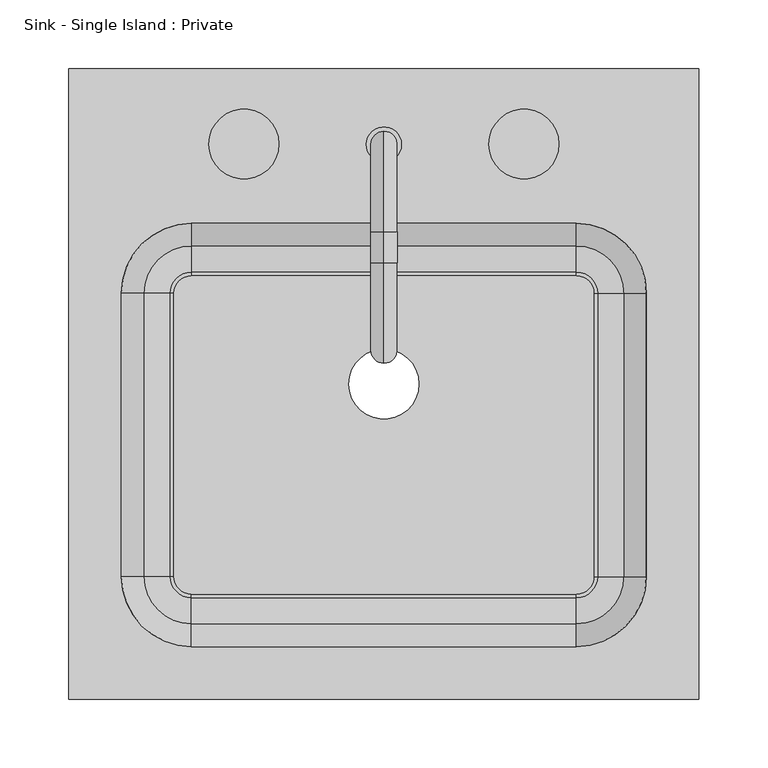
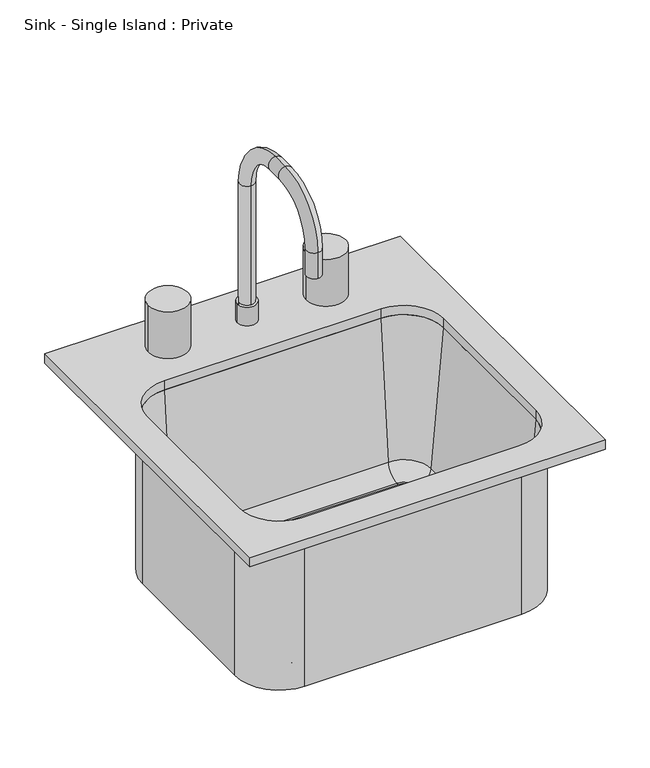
"""IFC4 building model written with IfcOpenShell, lengths in millimetres: flow terminal geometry, Sink - Single Island : Private."""

import ifcopenshell
import ifcopenshell.guid

model = None  # the IFC model being written
_history = None  # IfcOwnerHistory: only IFC2X3 demands one
_inside = {}  # id of a spatial element -> (the spatial element, [elements in it])
_under = {}  # id of a project, library or spatial element -> (it, [spatial elements below it])
_declared = {}  # id of a project -> (the project, [libraries it declares])
_typed = {}  # id of a type object -> (the type object, [elements of that type])
_made_of = {}  # id of a material, layer set ... -> (it, [elements and type objects made of it])


def new_model(schema):
    """Start an empty IFC model of exactly this schema.

    Asked for "IFC4X3", IfcOpenShell would pick the latest addendum, in which some entities
    have other attributes; the version numbers below select the first issue.
    IFC2X3 requires an IfcOwnerHistory on every rooted entity: one is made here for all.
    """
    global model, _history
    if schema == "IFC4X3":
        model = ifcopenshell.file(schema_version=(4, 3, 0, 0))
    else:
        model = ifcopenshell.file(schema=schema)
    _inside.clear()
    _under.clear()
    _declared.clear()
    _typed.clear()
    _made_of.clear()
    _history = None
    if model.schema == "IFC2X3":
        org = make("IfcOrganization", Name="unknown")
        user = make(
            "IfcPersonAndOrganization",
            ThePerson=make("IfcPerson", FamilyName="unknown"),
            TheOrganization=org,
        )
        app = make(
            "IfcApplication",
            ApplicationDeveloper=org,
            Version="unknown",
            ApplicationFullName="unknown",
            ApplicationIdentifier="unknown",
        )
        _history = make(
            "IfcOwnerHistory",
            OwningUser=user,
            OwningApplication=app,
            ChangeAction="ADDED",
            CreationDate=0,
        )
    return model


def make(cls, **values):
    """One entity of the class cls with the attributes given. An attribute that is None is left unset."""
    return model.create_entity(
        cls, **{name: value for name, value in values.items() if value is not None}
    )


def rooted(cls, **values):
    """An entity with a GlobalId (a new one), such as an element, a storey or a relation."""
    return make(cls, GlobalId=ifcopenshell.guid.new(), OwnerHistory=_history, **values)


def si_unit(unit_type, name, prefix=None):
    """IfcSIUnit, for example si_unit("LENGTHUNIT", "METRE", prefix="MILLI")."""
    return make("IfcSIUnit", UnitType=unit_type, Prefix=prefix, Name=name)


def assignment(units):
    """IfcUnitAssignment: the units of a project."""
    return None if units is None else make("IfcUnitAssignment", Units=units)


def point(xyz):
    """IfcCartesianPoint."""
    return None if xyz is None else make("IfcCartesianPoint", Coordinates=xyz)


def direction(xyz):
    """IfcDirection."""
    return None if xyz is None else make("IfcDirection", DirectionRatios=xyz)


def frame(location, z_axis=None, x_axis=None):
    """IfcAxis2Placement3D, a coordinate frame: its origin and axes. An axis left out is left unset."""
    return make(
        "IfcAxis2Placement3D",
        Location=point(location),
        Axis=direction(z_axis),
        RefDirection=direction(x_axis),
    )


def frame_2d(location, x_axis=None):
    """IfcAxis2Placement2D, a coordinate frame in the plane: its origin and x axis."""
    return make(
        "IfcAxis2Placement2D", Location=point(location), RefDirection=direction(x_axis)
    )


def origin():
    """The frame at (0, 0, 0) with its axes left unset."""
    return frame((0.0, 0.0, 0.0))


def origin_with_axes():
    """The frame at (0, 0, 0) with the z axis (0, 0, 1) and the x axis (1, 0, 0) written out."""
    return frame((0.0, 0.0, 0.0), z_axis=(0.0, 0.0, 1.0), x_axis=(1.0, 0.0, 0.0))


def origin_2d():
    """The frame at (0, 0) in the plane with its x axis left unset."""
    return frame_2d((0.0, 0.0))


def place(relative_to, where):
    """IfcLocalPlacement: puts the frame where relative to a parent placement (None: the world)."""
    return make(
        "IfcLocalPlacement", PlacementRelTo=relative_to, RelativePlacement=where
    )


def context(
    kind, dimensions, precision=None, world=None, true_north=None, identifier=None
):
    """IfcGeometricRepresentationContext, for example the 3D "Model" context."""
    return make(
        "IfcGeometricRepresentationContext",
        ContextIdentifier=identifier,
        ContextType=kind,
        CoordinateSpaceDimension=dimensions,
        Precision=precision,
        WorldCoordinateSystem=world,
        TrueNorth=true_north,
    )


def project(units=None, contexts=None):
    """IfcProject with its units and contexts."""
    return rooted(
        "IfcProject",
        Name="project",
        RepresentationContexts=contexts,
        UnitsInContext=assignment(units),
    )


def spatial(cls, under=None, at=None, **own):
    """A site, building, storey or space (cls), placed at a placement, below another one or the project."""
    s = rooted(cls, ObjectPlacement=at, **own)
    if under is not None:
        _under.setdefault(under.id(), (under, []))[1].append(s)
    return s


def polyline(points):
    """IfcPolyline through the points."""
    return make("IfcPolyline", Points=[point(p) for p in points])


def circle_curve(where, radius):
    """IfcCircle in the frame where."""
    return make("IfcCircle", Position=where, Radius=radius)


def ellipse_curve(where, semi_axis1, semi_axis2):
    """IfcEllipse in the frame where."""
    return make(
        "IfcEllipse", Position=where, SemiAxis1=semi_axis1, SemiAxis2=semi_axis2
    )


def trimmed(basis, trim1, trim2, sense, master):
    """IfcTrimmedCurve: the piece of a basis curve between two trims."""
    return make(
        "IfcTrimmedCurve",
        BasisCurve=basis,
        Trim1=trim1,
        Trim2=trim2,
        SenseAgreement=sense,
        MasterRepresentation=master,
    )


def segment(curve, same_sense, transition):
    """IfcCompositeCurveSegment."""
    return make(
        "IfcCompositeCurveSegment",
        Transition=transition,
        SameSense=same_sense,
        ParentCurve=curve,
    )


def composite_curve(segments, self_intersect=None):
    """IfcCompositeCurve: segments joined end to end."""
    return make("IfcCompositeCurve", Segments=segments, SelfIntersect=self_intersect)


def outline(outer, holes=None, kind="AREA"):
    """IfcArbitraryClosedProfileDef: a profile drawn as a closed curve; with holes, ...WithVoids."""
    if holes is None:
        return make("IfcArbitraryClosedProfileDef", ProfileType=kind, OuterCurve=outer)
    return make(
        "IfcArbitraryProfileDefWithVoids",
        ProfileType=kind,
        OuterCurve=outer,
        InnerCurves=holes,
    )


def extrude(swept, where, along, depth):
    """IfcExtrudedAreaSolid: the profile swept, set in the frame where, extruded along a direction by depth."""
    return make(
        "IfcExtrudedAreaSolid",
        SweptArea=swept,
        Position=where,
        ExtrudedDirection=direction(along),
        Depth=depth,
    )


def shape(context_of_items, identifier, shape_type, items):
    """IfcShapeRepresentation: the items that make up one representation, for example the "Body"."""
    return make(
        "IfcShapeRepresentation",
        ContextOfItems=context_of_items,
        RepresentationIdentifier=identifier,
        RepresentationType=shape_type,
        Items=items,
    )


def source(mapping_origin, context_of_items, identifier, shape_type, items):
    """IfcRepresentationMap: a shape defined once, which mapped items show again and again."""
    return make(
        "IfcRepresentationMap",
        MappingOrigin=mapping_origin,
        MappedRepresentation=shape(context_of_items, identifier, shape_type, items),
    )


def transform(
    local_origin,
    x_axis=None,
    y_axis=None,
    z_axis=None,
    scale=None,
    scale2=None,
    scale3=None,
    uniform=True,
):
    """IfcCartesianTransformationOperator3D, or its non-uniform kind. x_axis, y_axis, z_axis: its Axis1, 2, 3."""
    if uniform:
        return make(
            "IfcCartesianTransformationOperator3D",
            Axis1=direction(x_axis),
            Axis2=direction(y_axis),
            LocalOrigin=point(local_origin),
            Scale=scale,
            Axis3=direction(z_axis),
        )
    return make(
        "IfcCartesianTransformationOperator3DnonUniform",
        Axis1=direction(x_axis),
        Axis2=direction(y_axis),
        LocalOrigin=point(local_origin),
        Scale=scale,
        Axis3=direction(z_axis),
        Scale2=scale2,
        Scale3=scale3,
    )


def mapped(mapping_source, mapping_target):
    """IfcMappedItem: shows the shape of a source again, moved by a transform."""
    return make(
        "IfcMappedItem", MappingSource=mapping_source, MappingTarget=mapping_target
    )


def made_of(thing, what):
    """Note that an element or type object is made of a material, layer set ...; save() writes the relation."""
    if what is not None:
        _made_of.setdefault(what.id(), (what, []))[1].append(thing)
    return thing


def element(
    cls,
    number,
    at=None,
    inside=None,
    cuts=None,
    type_object=None,
    material=None,
    context=None,
    identifier="Body",
    shape_type=None,
    held_by="IfcProductDefinitionShape",
    body=None,
    shapes=None,
    **own,
):
    """One element of the class cls, such as IfcWall. Its Tag is "e" and its number.

    at: its placement. inside: the storey or other place that contains it. cuts: it is an
    opening in that element (IfcRelVoidsElement). A single representation is given by context,
    identifier, shape_type and body (its items); several are given by shapes. held_by: the class
    of the entity that holds the representations. save() writes the other relations.
    """
    e = rooted(cls, Tag="e%d" % number, ObjectPlacement=at, **own)
    if body is not None:
        shapes = [shape(context, identifier, shape_type, body)]
    if shapes is not None:
        e.Representation = make(held_by, Representations=shapes)
    if inside is not None:
        _inside.setdefault(inside.id(), (inside, []))[1].append(e)
    if cuts is not None:
        rooted(
            "IfcRelVoidsElement", RelatingBuildingElement=cuts, RelatedOpeningElement=e
        )
    if type_object is not None:
        _typed.setdefault(type_object.id(), (type_object, []))[1].append(e)
    return made_of(e, material)


def aggregate(whole, parts):
    """IfcRelAggregates: a whole, such as a stair, and the parts it consists of."""
    return rooted("IfcRelAggregates", RelatingObject=whole, RelatedObjects=parts)


def save(model, path):
    """Write the relations noted so far, then the file.

    IfcRelAggregates (storeys below a building ...), IfcRelContainedInSpatialStructure (elements
    in a storey), IfcRelDefinesByType, IfcRelAssociatesMaterial and IfcRelDeclares: one each for
    every whole, place, type object, material and project.
    """
    for whole, parts in _under.values():
        aggregate(whole, parts)
    for where, things in _inside.values():
        rooted(
            "IfcRelContainedInSpatialStructure",
            RelatedElements=things,
            RelatingStructure=where,
        )
    for kind, things in _typed.values():
        rooted("IfcRelDefinesByType", RelatedObjects=things, RelatingType=kind)
    for what, things in _made_of.values():
        rooted("IfcRelAssociatesMaterial", RelatedObjects=things, RelatingMaterial=what)
    for by, libraries in _declared.values():
        rooted("IfcRelDeclares", RelatingContext=by, RelatedDefinitions=libraries)
    model.write(path)


def plane_surface(at):
    """IfcPlane: the flat surface through the origin of the frame at, square to its z axis."""
    return make("IfcPlane", Position=at)


def cylinder_surface(at, radius):
    """IfcCylindricalSurface: all points at the distance radius from the z axis of the frame at."""
    return make("IfcCylindricalSurface", Position=at, Radius=radius)


def revolved_surface(curve, axis_point, axis_direction):
    """IfcSurfaceOfRevolution: the curve turned about the line through axis_point along axis_direction."""
    return make(
        "IfcSurfaceOfRevolution",
        SweptCurve=make("IfcArbitraryOpenProfileDef", ProfileType="CURVE", Curve=curve),
        AxisPosition=make("IfcAxis1Placement", Location=point(axis_point), Axis=direction(axis_direction)),
    )


def advanced_brep(points, edges, surfaces, faces):
    """IfcAdvancedBrep: a solid bounded by faces that lie on surfaces and meet in shared edges.

    An edge is (start, end): straight between two places in points (the first is 0);
    or (start, end, curve); or (start, end, curve, False) where it runs against its curve.
    A face is (place in surfaces, loops), or (place, loops, False) where it looks against
    its surface's normal. A loop lists edges by number (the first is 1), with a minus sign
    where the edge is run from its end to its start. The first loop is the outer one.
    """
    corners = [point(p) for p in points]
    vertices = [make("IfcVertexPoint", VertexGeometry=c) for c in corners]
    made = []
    for start, end, *more in edges:
        made.append(
            make(
                "IfcEdgeCurve",
                EdgeStart=vertices[start],
                EdgeEnd=vertices[end],
                EdgeGeometry=more[0] if more else make("IfcPolyline", Points=[corners[start], corners[end]]),
                SameSense=more[1] if len(more) > 1 else True,
            )
        )
    hull = []
    for where, loops, *sense in faces:
        bounds = []
        for j, loop in enumerate(loops):
            ring = [make("IfcOrientedEdge", EdgeElement=made[abs(k) - 1], Orientation=k > 0) for k in loop]
            bounds.append(
                make(
                    "IfcFaceOuterBound" if j == 0 else "IfcFaceBound",
                    Bound=make("IfcEdgeLoop", EdgeList=ring),
                    Orientation=True,
                )
            )
        hull.append(make("IfcAdvancedFace", Bounds=bounds, FaceSurface=surfaces[where], SameSense=sense[0] if sense else True))
    return make("IfcAdvancedBrep", Outer=make("IfcClosedShell", CfsFaces=hull))


def sink_single_island_private_d5797e09(model_context):
    return source(origin(), model_context, "Body", "SolidModel", [
        extrude(outline(composite_curve([segment(trimmed(circle_curve(frame_2d((0.0, 173.7954011)), 12.7), [point((-12.7, 173.7954011))], [point((12.7, 173.7954011))], False, "CARTESIAN"), True, "CONTINUOUS"), segment(trimmed(circle_curve(frame_2d((0.0, 173.7954011)), 12.7), [point((12.7, 173.7954011))], [point((-12.7, 173.7954011))], False, "CARTESIAN"), True, "CONTINUOUS")], self_intersect=False)), frame((0.0, 0.0, 12.7), z_axis=(0.0, 0.0, 1.0), x_axis=(1.0, 0.0, 0.0)), (0.0, 0.0, 1.0), 25.4),
        advanced_brep(
        [(0.0, 183.3204011, 12.7), (0.0, 164.2704011, 12.7), (0.0, 183.3204011, 200.025), (0.0, 164.2704011, 200.025), (0.0, 110.2954011, 254.0), (0.0, 110.2954011, 273.05), (0.0, 88.0704011, 273.05), (0.0, 88.0704011, 254.0), (0.0, 34.0954011, 200.025), (0.0, 15.0454011, 200.025), (0.0, 15.0454011, 165.1), (0.0, 34.0954011, 165.1)],
        [
            (0, 1, circle_curve(frame((0.0, 173.7954011, 12.7), z_axis=(0.0, 0.0, -1.0), x_axis=(0.0, -1.0, 0.0)), 9.525)),
            (1, 0, circle_curve(frame((0.0, 173.7954011, 12.7), z_axis=(0.0, 0.0, -1.0), x_axis=(0.0, -1.0, 0.0)), 9.525)),
            (0, 2),
            (2, 3, circle_curve(frame((0.0, 173.7954011, 200.025), z_axis=(0.0, 0.0, -1.0), x_axis=(0.0, -1.0, 0.0)), 9.525)),
            (3, 1),
            (3, 2, circle_curve(frame((0.0, 173.7954011, 200.025), z_axis=(0.0, 0.0, -1.0), x_axis=(0.0, -1.0, 0.0)), 9.525)),
            (4, 3, circle_curve(frame((0.0, 110.2954011, 200.025), z_axis=(-1.0, 0.0, 0.0), x_axis=(0.0, 1.0, 0.0)), 53.975)),
            (2, 5, circle_curve(frame((0.0, 110.2954011, 200.025), z_axis=(1.0, 0.0, 0.0), x_axis=(0.0, 1.0, 0.0)), 73.025)),
            (5, 4, circle_curve(frame((0.0, 110.2954011, 263.525), z_axis=(0.0, 1.0, 0.0), x_axis=(0.0, 0.0, -1.0)), 9.525)),
            (4, 5, circle_curve(frame((0.0, 110.2954011, 263.525), z_axis=(0.0, 1.0, 0.0), x_axis=(0.0, 0.0, -1.0)), 9.525)),
            (5, 6),
            (6, 7, circle_curve(frame((0.0, 88.0704011, 263.525), z_axis=(0.0, 1.0, 0.0), x_axis=(0.0, 0.0, -1.0)), 9.525)),
            (7, 4),
            (7, 6, circle_curve(frame((0.0, 88.0704011, 263.525), z_axis=(0.0, 1.0, 0.0), x_axis=(0.0, 0.0, -1.0)), 9.525)),
            (8, 7, circle_curve(frame((0.0, 88.0704011, 200.025), z_axis=(-1.0, 0.0, 0.0), x_axis=(0.0, 0.0, 1.0)), 53.975)),
            (6, 9, circle_curve(frame((0.0, 88.0704011, 200.025), z_axis=(1.0, 0.0, 0.0), x_axis=(0.0, 0.0, 1.0)), 73.025)),
            (9, 8, circle_curve(frame((0.0, 24.5704011, 200.025), z_axis=(0.0, 0.0, 1.0), x_axis=(0.0, 1.0, 0.0)), 9.525)),
            (8, 9, circle_curve(frame((0.0, 24.5704011, 200.025), z_axis=(0.0, 0.0, 1.0), x_axis=(0.0, 1.0, 0.0)), 9.525)),
            (10, 11, circle_curve(frame((0.0, 24.5704011, 165.1), z_axis=(0.0, 0.0, -1.0), x_axis=(0.0, 1.0, 0.0)), 9.525)),
            (11, 10, circle_curve(frame((0.0, 24.5704011, 165.1), z_axis=(0.0, 0.0, -1.0), x_axis=(0.0, 1.0, 0.0)), 9.525)),
            (9, 10),
            (11, 8),
        ],
        [
            plane_surface(frame((0.0, 164.2704011, 12.7), z_axis=(0.0, 0.0, -1.0), x_axis=(1.0, 0.0, 0.0))),
            cylinder_surface(frame((0.0, 173.7954011, 12.7), z_axis=(0.0, 0.0, -1.0), x_axis=(0.0, -1.0, 0.0)), 9.525),
            revolved_surface(trimmed(ellipse_curve(frame((0.0, 173.7954011, 200.025), z_axis=(0.0, 0.0, -1.0), x_axis=(0.0, -1.0, 0.0)), 9.525, 9.525), [point((0.0, 183.3204011, 200.025))], [point((0.0, 164.2704011, 200.025))], True, "CARTESIAN"), (0.0, 110.2954011, 200.025), (1.0, 0.0, 0.0)),
            revolved_surface(trimmed(ellipse_curve(frame((0.0, 173.7954011, 200.025), z_axis=(0.0, 0.0, -1.0), x_axis=(0.0, -1.0, 0.0)), 9.525, 9.525), [point((0.0, 164.2704011, 200.025))], [point((0.0, 183.3204011, 200.025))], True, "CARTESIAN"), (0.0, 110.2954011, 200.025), (1.0, 0.0, 0.0)),
            cylinder_surface(frame((0.0, 110.2954011, 263.525), z_axis=(0.0, 1.0, 0.0), x_axis=(0.0, 0.0, -1.0)), 9.525),
            revolved_surface(trimmed(ellipse_curve(frame((0.0, 88.0704011, 263.525), z_axis=(0.0, 1.0, 0.0), x_axis=(0.0, 0.0, -1.0)), 9.525, 9.525), [point((0.0, 88.0704011, 273.05))], [point((0.0, 88.0704011, 254.0))], True, "CARTESIAN"), (0.0, 88.0704011, 200.025), (1.0, 0.0, 0.0)),
            revolved_surface(trimmed(ellipse_curve(frame((0.0, 88.0704011, 263.525), z_axis=(0.0, 1.0, 0.0), x_axis=(0.0, 0.0, -1.0)), 9.525, 9.525), [point((0.0, 88.0704011, 254.0))], [point((0.0, 88.0704011, 273.05))], True, "CARTESIAN"), (0.0, 88.0704011, 200.025), (1.0, 0.0, 0.0)),
            plane_surface(frame((0.0, 15.0454011, 165.1), z_axis=(0.0, 0.0, -1.0), x_axis=(-1.0, 0.0, 0.0))),
            cylinder_surface(frame((0.0, 24.5704011, 200.025), z_axis=(0.0, 0.0, 1.0), x_axis=(0.0, 1.0, 0.0)), 9.525),
        ],
        [
            (0, [[1, 2]]),
            (1, [[-1, 3, 4, 5]]),
            (1, [[-2, -5, 6, -3]]),
            (2, [[7, -4, 8, 9]]),
            (3, [[-8, -6, -7, 10]]),
            (4, [[-9, 11, 12, 13]]),
            (4, [[-10, -13, 14, -11]]),
            (5, [[15, -12, 16, 17]]),
            (6, [[-16, -14, -15, 18]]),
            (7, [[19, 20]]),
            (8, [[-17, 21, -20, 22]]),
            (8, [[-18, -22, -19, -21]]),
        ],
    ),
        extrude(outline(composite_curve([segment(trimmed(circle_curve(frame_2d((-101.6, 174.0458909)), 25.4), [point((-127.0, 174.0458909))], [point((-76.2, 174.0458909))], False, "CARTESIAN"), True, "CONTINUOUS"), segment(trimmed(circle_curve(frame_2d((-101.6, 174.0458909)), 25.4), [point((-76.2, 174.0458909))], [point((-127.0, 174.0458909))], False, "CARTESIAN"), True, "CONTINUOUS")], self_intersect=False)), origin_with_axes(), (0.0, 0.0, 1.0), 76.2),
        extrude(outline(composite_curve([segment(trimmed(circle_curve(frame_2d((101.6, 174.0458909)), 25.4), [point((76.2, 174.0458909))], [point((127.0, 174.0458909))], False, "CARTESIAN"), True, "CONTINUOUS"), segment(trimmed(circle_curve(frame_2d((101.6, 174.0458909)), 25.4), [point((127.0, 174.0458909))], [point((76.2, 174.0458909))], False, "CARTESIAN"), True, "CONTINUOUS")], self_intersect=False)), origin_with_axes(), (0.0, 0.0, 1.0), 76.2),
        extrude(outline(composite_curve([segment(trimmed(circle_curve(frame_2d((139.7, 65.8454011)), 12.7), [point((139.7, 78.5454011))], [point((152.4, 65.8454011))], False, "CARTESIAN"), True, "CONTINUOUS"), segment(polyline([(152.4, 65.8454011), (152.4, -139.7)]), True, "CONTINUOUS"), segment(trimmed(circle_curve(frame_2d((139.7, -139.7)), 12.7), [point((152.4, -139.7))], [point((139.7, -152.4))], False, "CARTESIAN"), True, "CONTINUOUS"), segment(polyline([(139.7, -152.4), (-139.7, -152.4)]), True, "CONTINUOUS"), segment(trimmed(circle_curve(frame_2d((-139.7, -139.7)), 12.7), [point((-139.7, -152.4))], [point((-152.4, -139.7))], False, "CARTESIAN"), True, "CONTINUOUS"), segment(polyline([(-152.4, -139.7), (-152.4, 65.8454011)]), True, "CONTINUOUS"), segment(trimmed(circle_curve(frame_2d((-139.7, 65.8454011)), 12.7), [point((-152.4, 65.8454011))], [point((-139.7, 78.5454011))], False, "CARTESIAN"), True, "CONTINUOUS"), segment(polyline([(-139.7, 78.5454011), (139.7, 78.5454011)]), True, "CONTINUOUS")], self_intersect=False), holes=[composite_curve([segment(trimmed(circle_curve(origin_2d(), 25.4), [point((-25.4, 0.0))], [point((25.4, 0.0))], True, "CARTESIAN"), True, "CONTINUOUS"), segment(trimmed(circle_curve(origin_2d(), 25.4), [point((25.4, 0.0))], [point((-25.4, 0.0))], True, "CARTESIAN"), True, "CONTINUOUS")], self_intersect=False)]), frame((0.0, 0.0, -212.725), z_axis=(0.0, 0.0, 1.0), x_axis=(1.0, 0.0, 0.0)), (0.0, 0.0, 1.0), 9.525),
        advanced_brep(
        [(196.85, 65.8454011, -212.725), (139.7, 122.9954011, -212.725), (139.7, 122.9954011, 0.0), (196.85, 65.8454011, 0.0), (152.4, 65.8454011, -212.725), (139.7, 78.5454011, -212.725), (152.4, 65.8454011, -203.2), (139.7, 78.5454011, -203.2), (154.9884182, 65.8454011, -203.2), (139.7, 81.1338193, -203.2), (173.9659272, 65.8454011, -185.8103169), (139.7, 100.1113283, -185.8103169), (190.5, 65.8454011, 0.0), (139.7, 116.6454011, 0.0), (196.85, -139.7, 0.0), (196.85, -139.7, -212.725), (152.4, -139.7, -212.725), (152.4, -139.7, -203.2), (154.9884182, -139.7, -203.2), (173.9659272, -139.7, -185.8103169), (190.5, -139.7, 0.0), (139.7, -196.85, -212.725), (139.7, -196.85, 0.0), (139.7, -152.4, -212.725), (139.7, -152.4, -203.2), (139.7, -154.9884182, -203.2), (139.7, -173.9659272, -185.8103169), (139.7, -190.5, 0.0), (-139.7, -196.85, 0.0), (-139.7, -196.85, -212.725), (-139.7, -152.4, -212.725), (-139.7, -152.4, -203.2), (-139.7, -154.9884182, -203.2), (-139.7, -173.9659272, -185.8103169), (-139.7, -190.5, 0.0), (-196.85, -139.7, -212.725), (-196.85, -139.7, 0.0), (-152.4, -139.7, -212.725), (-152.4, -139.7, -203.2), (-154.9884182, -139.7, -203.2), (-173.9659272, -139.7, -185.8103169), (-190.5, -139.7, 0.0), (-196.85, 65.8454011, 0.0), (-196.85, 65.8454011, -212.725), (-152.4, 65.8454011, -212.725), (-152.4, 65.8454011, -203.2), (-154.9884182, 65.8454011, -203.2), (-173.9659272, 65.8454011, -185.8103169), (-190.5, 65.8454011, 0.0), (-139.7, 122.9954011, -212.725), (-139.7, 122.9954011, 0.0), (-139.7, 78.5454011, -212.725), (-139.7, 78.5454011, -203.2), (-139.7, 81.1338193, -203.2), (-139.7, 100.1113283, -185.8103169), (-139.7, 116.6454011, 0.0)],
        [
            (0, 1, circle_curve(frame((139.7, 65.8454011, -212.725), z_axis=(0.0, 0.0, 1.0), x_axis=(0.0, 1.0, 0.0)), 57.15)),
            (1, 2),
            (2, 3, circle_curve(frame((139.7, 65.8454011, 0.0), z_axis=(0.0, 0.0, -1.0), x_axis=(0.0, 1.0, 0.0)), 57.15)),
            (3, 0),
            (4, 5, circle_curve(frame((139.7, 65.8454011, -212.725), z_axis=(0.0, 0.0, 1.0), x_axis=(0.0, 1.0, 0.0)), 12.7)),
            (5, 1),
            (0, 4),
            (6, 7, circle_curve(frame((139.7, 65.8454011, -203.2), z_axis=(0.0, 0.0, 1.0), x_axis=(0.0, 1.0, 0.0)), 12.7)),
            (7, 5),
            (4, 6),
            (8, 9, circle_curve(frame((139.7, 65.8454011, -203.2), z_axis=(0.0, 0.0, 1.0), x_axis=(0.0, 1.0, 0.0)), 15.2884182)),
            (9, 7),
            (6, 8),
            (10, 11, circle_curve(frame((139.7, 65.8454011, -185.8103169), z_axis=(0.0, 0.0, 1.0), x_axis=(0.0, 1.0, 0.0)), 34.2659272)),
            (11, 9, circle_curve(frame((139.7, 81.1338193, -184.15), z_axis=(-1.0, 0.0, 0.0), x_axis=(0.0, 1.0, 0.0)), 19.05)),
            (8, 10, circle_curve(frame((154.9884182, 65.8454011, -184.15), z_axis=(0.0, -1.0, 0.0), x_axis=(1.0, 0.0, 0.0)), 19.05)),
            (12, 13, circle_curve(frame((139.7, 65.8454011, 0.0), z_axis=(0.0, 0.0, 1.0), x_axis=(0.0, 1.0, 0.0)), 50.8)),
            (13, 11),
            (10, 12),
            (2, 13),
            (12, 3),
            (3, 14),
            (14, 15),
            (15, 0),
            (15, 16),
            (16, 4),
            (16, 17),
            (17, 6),
            (17, 18),
            (18, 8),
            (18, 19, circle_curve(frame((154.9884182, -139.7, -184.15), z_axis=(0.0, -1.0, 0.0), x_axis=(1.0, 0.0, 0.0)), 19.05)),
            (19, 10),
            (19, 20),
            (20, 12),
            (20, 14),
            (21, 15, circle_curve(frame((139.7, -139.7, -212.725), z_axis=(0.0, 0.0, 1.0), x_axis=(1.0, 0.0, 0.0)), 57.15)),
            (14, 22, circle_curve(frame((139.7, -139.7, 0.0), z_axis=(0.0, 0.0, -1.0), x_axis=(1.0, 0.0, 0.0)), 57.15)),
            (22, 21),
            (23, 16, circle_curve(frame((139.7, -139.7, -212.725), z_axis=(0.0, 0.0, 1.0), x_axis=(1.0, 0.0, 0.0)), 12.7)),
            (21, 23),
            (24, 17, circle_curve(frame((139.7, -139.7, -203.2), z_axis=(0.0, 0.0, 1.0), x_axis=(1.0, 0.0, 0.0)), 12.7)),
            (23, 24),
            (25, 18, circle_curve(frame((139.7, -139.7, -203.2), z_axis=(0.0, 0.0, 1.0), x_axis=(1.0, 0.0, 0.0)), 15.2884182)),
            (24, 25),
            (26, 19, circle_curve(frame((139.7, -139.7, -185.8103169), z_axis=(0.0, 0.0, 1.0), x_axis=(1.0, 0.0, 0.0)), 34.2659272)),
            (25, 26, circle_curve(frame((139.7, -154.9884182, -184.15), z_axis=(-1.0, 0.0, 0.0), x_axis=(0.0, -1.0, 0.0)), 19.05)),
            (27, 20, circle_curve(frame((139.7, -139.7, 0.0), z_axis=(0.0, 0.0, 1.0), x_axis=(1.0, 0.0, 0.0)), 50.8)),
            (26, 27),
            (27, 22),
            (22, 28),
            (28, 29),
            (29, 21),
            (29, 30),
            (30, 23),
            (30, 31),
            (31, 24),
            (31, 32),
            (32, 25),
            (32, 33, circle_curve(frame((-139.7, -154.9884182, -184.15), z_axis=(-1.0, 0.0, 0.0), x_axis=(0.0, -1.0, 0.0)), 19.05)),
            (33, 26),
            (33, 34),
            (34, 27),
            (34, 28),
            (35, 29, circle_curve(frame((-139.7, -139.7, -212.725), z_axis=(0.0, 0.0, 1.0), x_axis=(0.0, -1.0, 0.0)), 57.15)),
            (28, 36, circle_curve(frame((-139.7, -139.7, 0.0), z_axis=(0.0, 0.0, -1.0), x_axis=(0.0, -1.0, 0.0)), 57.15)),
            (36, 35),
            (37, 30, circle_curve(frame((-139.7, -139.7, -212.725), z_axis=(0.0, 0.0, 1.0), x_axis=(0.0, -1.0, 0.0)), 12.7)),
            (35, 37),
            (38, 31, circle_curve(frame((-139.7, -139.7, -203.2), z_axis=(0.0, 0.0, 1.0), x_axis=(0.0, -1.0, 0.0)), 12.7)),
            (37, 38),
            (39, 32, circle_curve(frame((-139.7, -139.7, -203.2), z_axis=(0.0, 0.0, 1.0), x_axis=(0.0, -1.0, 0.0)), 15.2884182)),
            (38, 39),
            (40, 33, circle_curve(frame((-139.7, -139.7, -185.8103169), z_axis=(0.0, 0.0, 1.0), x_axis=(0.0, -1.0, 0.0)), 34.2659272)),
            (39, 40, circle_curve(frame((-154.9884182, -139.7, -184.15), z_axis=(0.0, 1.0, 0.0), x_axis=(-1.0, 0.0, 0.0)), 19.05)),
            (41, 34, circle_curve(frame((-139.7, -139.7, 0.0), z_axis=(0.0, 0.0, 1.0), x_axis=(0.0, -1.0, 0.0)), 50.8)),
            (40, 41),
            (41, 36),
            (36, 42),
            (42, 43),
            (43, 35),
            (43, 44),
            (44, 37),
            (44, 45),
            (45, 38),
            (45, 46),
            (46, 39),
            (46, 47, circle_curve(frame((-154.9884182, 65.8454011, -184.15), z_axis=(0.0, 1.0, 0.0), x_axis=(-1.0, 0.0, 0.0)), 19.05)),
            (47, 40),
            (47, 48),
            (48, 41),
            (48, 42),
            (49, 43, circle_curve(frame((-139.7, 65.8454011, -212.725), z_axis=(0.0, 0.0, 1.0), x_axis=(-1.0, 0.0, 0.0)), 57.15)),
            (42, 50, circle_curve(frame((-139.7, 65.8454011, 0.0), z_axis=(0.0, 0.0, -1.0), x_axis=(-1.0, 0.0, 0.0)), 57.15)),
            (50, 49),
            (51, 44, circle_curve(frame((-139.7, 65.8454011, -212.725), z_axis=(0.0, 0.0, 1.0), x_axis=(-1.0, 0.0, 0.0)), 12.7)),
            (49, 51),
            (52, 45, circle_curve(frame((-139.7, 65.8454011, -203.2), z_axis=(0.0, 0.0, 1.0), x_axis=(-1.0, 0.0, 0.0)), 12.7)),
            (51, 52),
            (53, 46, circle_curve(frame((-139.7, 65.8454011, -203.2), z_axis=(0.0, 0.0, 1.0), x_axis=(-1.0, 0.0, 0.0)), 15.2884182)),
            (52, 53),
            (54, 47, circle_curve(frame((-139.7, 65.8454011, -185.8103169), z_axis=(0.0, 0.0, 1.0), x_axis=(-1.0, 0.0, 0.0)), 34.2659272)),
            (53, 54, circle_curve(frame((-139.7, 81.1338193, -184.15), z_axis=(1.0, 0.0, 0.0), x_axis=(0.0, 1.0, 0.0)), 19.05)),
            (55, 48, circle_curve(frame((-139.7, 65.8454011, 0.0), z_axis=(0.0, 0.0, 1.0), x_axis=(-1.0, 0.0, 0.0)), 50.8)),
            (54, 55),
            (55, 50),
            (50, 2),
            (1, 49),
            (5, 51),
            (7, 52),
            (9, 53),
            (11, 54),
            (13, 55),
        ],
        [
            cylinder_surface(frame((139.7, 65.8454011, -914.4), z_axis=(0.0, 0.0, -1.0), x_axis=(0.0, 1.0, 0.0)), 57.15),
            plane_surface(frame((139.7, 65.8454011, -212.725), z_axis=(0.0, 0.0, -1.0), x_axis=(0.0, 1.0, 0.0))),
            revolved_surface(polyline([(139.7, 78.5454011, -212.72500000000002), (139.7, 78.5454011, -203.19999999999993)]), (139.7, 65.8454011, -914.4), (0.0, 0.0, -1.0)),
            plane_surface(frame((139.7, 65.8454011, -203.2), z_axis=(0.0, 0.0, 1.0), x_axis=(0.0, 1.0, 0.0))),
            revolved_surface(trimmed(ellipse_curve(frame((139.7, 81.1338193, -184.15), z_axis=(1.0, 0.0, 0.0), x_axis=(0.0, 1.0, 0.0)), 19.05, 19.05), [point((139.7, 81.1338193, -203.2))], [point((139.7, 100.1113283, -185.8103169))], True, "CARTESIAN"), (139.7, 65.8454011, -914.4), (0.0, 0.0, -1.0)),
            revolved_surface(polyline([(139.7, 100.1113283, -185.8103169), (139.7, 116.6454011, 0.0)]), (139.7, 65.8454011, -914.4), (0.0, 0.0, -1.0)),
            plane_surface(frame((139.7, 65.8454011, 0.0), z_axis=(0.0, 0.0, 1.0), x_axis=(0.0, 1.0, 0.0))),
            plane_surface(frame((196.85, 65.8454011, 0.0), z_axis=(1.0, 0.0, 0.0), x_axis=(0.0, -1.0, 0.0))),
            plane_surface(frame((196.85, 65.8454011, -212.725), z_axis=(0.0, 0.0, -1.0), x_axis=(0.0, -1.0, 0.0))),
            plane_surface(frame((152.4, 65.8454011, -212.725), z_axis=(-1.0, 0.0, 0.0), x_axis=(0.0, -1.0, 0.0))),
            plane_surface(frame((152.4, 65.8454011, -203.2), z_axis=(0.0, 0.0, 1.0), x_axis=(0.0, -1.0, 0.0))),
            revolved_surface(polyline([(174.03841820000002, -139.7, -184.15), (174.03841820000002, 65.8454011, -184.15)]), (154.9884182, 65.8454011, -184.15), (0.0, -1.0, 0.0)),
            plane_surface(frame((173.9659272, 65.8454011, -185.8103169), z_axis=(-0.9960643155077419, 0.0, 0.08863339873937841), x_axis=(0.0, -1.0, 0.0))),
            plane_surface(frame((190.5, 65.8454011, 0.0), z_axis=(0.0, 0.0, 1.0), x_axis=(0.0, -1.0, 0.0))),
            cylinder_surface(frame((139.7, -139.7, -914.4), z_axis=(0.0, 0.0, -1.0), x_axis=(1.0, 0.0, 0.0)), 57.15),
            plane_surface(frame((139.7, -139.7, -212.725), z_axis=(0.0, 0.0, -1.0), x_axis=(1.0, 0.0, 0.0))),
            revolved_surface(polyline([(152.39999999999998, -139.7, -212.72500000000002), (152.39999999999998, -139.7, -203.19999999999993)]), (139.7, -139.7, -914.4), (0.0, 0.0, -1.0)),
            plane_surface(frame((139.7, -139.7, -203.2), z_axis=(0.0, 0.0, 1.0), x_axis=(1.0, 0.0, 0.0))),
            revolved_surface(trimmed(ellipse_curve(frame((154.9884182, -139.7, -184.15), z_axis=(0.0, -1.0, 0.0), x_axis=(1.0, 0.0, 0.0)), 19.05, 19.05), [point((154.9884182, -139.7, -203.2))], [point((173.9659272, -139.7, -185.8103169))], True, "CARTESIAN"), (139.7, -139.7, -914.4), (0.0, 0.0, -1.0)),
            revolved_surface(polyline([(173.9659272, -139.7, -185.8103169), (190.5, -139.7, 0.0)]), (139.7, -139.7, -914.4), (0.0, 0.0, -1.0)),
            plane_surface(frame((139.7, -139.7, 0.0), z_axis=(0.0, 0.0, 1.0), x_axis=(1.0, 0.0, 0.0))),
            plane_surface(frame((139.7, -196.85, 0.0), z_axis=(0.0, -1.0, 0.0), x_axis=(-1.0, 0.0, 0.0))),
            plane_surface(frame((139.7, -196.85, -212.725), z_axis=(0.0, 0.0, -1.0), x_axis=(-1.0, 0.0, 0.0))),
            plane_surface(frame((139.7, -152.4, -212.725), z_axis=(0.0, 1.0, 0.0), x_axis=(-1.0, 0.0, 0.0))),
            plane_surface(frame((139.7, -152.4, -203.2), z_axis=(0.0, 0.0, 1.0), x_axis=(-1.0, 0.0, 0.0))),
            revolved_surface(polyline([(-139.7, -174.03841820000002, -184.15), (139.7, -174.03841820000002, -184.15)]), (139.7, -154.9884182, -184.15), (-1.0, 0.0, 0.0)),
            plane_surface(frame((139.7, -173.9659272, -185.8103169), z_axis=(0.0, 0.9960643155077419, 0.08863339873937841), x_axis=(-1.0, 0.0, 0.0))),
            plane_surface(frame((139.7, -190.5, 0.0), z_axis=(0.0, 0.0, 1.0), x_axis=(-1.0, 0.0, 0.0))),
            cylinder_surface(frame((-139.7, -139.7, -914.4), z_axis=(0.0, 0.0, -1.0), x_axis=(0.0, -1.0, 0.0)), 57.15),
            plane_surface(frame((-139.7, -139.7, -212.725), z_axis=(0.0, 0.0, -1.0), x_axis=(0.0, -1.0, 0.0))),
            revolved_surface(polyline([(-139.7, -152.39999999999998, -212.72500000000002), (-139.7, -152.39999999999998, -203.19999999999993)]), (-139.7, -139.7, -914.4), (0.0, 0.0, -1.0)),
            plane_surface(frame((-139.7, -139.7, -203.2), z_axis=(0.0, 0.0, 1.0), x_axis=(0.0, -1.0, 0.0))),
            revolved_surface(trimmed(ellipse_curve(frame((-139.7, -154.9884182, -184.15), z_axis=(-1.0, 0.0, 0.0), x_axis=(0.0, -1.0, 0.0)), 19.05, 19.05), [point((-139.7, -154.9884182, -203.2))], [point((-139.7, -173.9659272, -185.8103169))], True, "CARTESIAN"), (-139.7, -139.7, -914.4), (0.0, 0.0, -1.0)),
            revolved_surface(polyline([(-139.7, -173.9659272, -185.8103169), (-139.7, -190.5, 0.0)]), (-139.7, -139.7, -914.4), (0.0, 0.0, -1.0)),
            plane_surface(frame((-139.7, -139.7, 0.0), z_axis=(0.0, 0.0, 1.0), x_axis=(0.0, -1.0, 0.0))),
            plane_surface(frame((-196.85, -139.7, 0.0), z_axis=(-1.0, 0.0, 0.0), x_axis=(0.0, 1.0, 0.0))),
            plane_surface(frame((-196.85, -139.7, -212.725), z_axis=(0.0, 0.0, -1.0), x_axis=(0.0, 1.0, 0.0))),
            plane_surface(frame((-152.4, -139.7, -212.725), z_axis=(1.0, 0.0, 0.0), x_axis=(0.0, 1.0, 0.0))),
            plane_surface(frame((-152.4, -139.7, -203.2), z_axis=(0.0, 0.0, 1.0), x_axis=(0.0, 1.0, 0.0))),
            revolved_surface(polyline([(-174.03841820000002, 65.8454011, -184.15), (-174.03841820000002, -139.7, -184.15)]), (-154.9884182, -139.7, -184.15), (0.0, 1.0, 0.0)),
            plane_surface(frame((-173.9659272, -139.7, -185.8103169), z_axis=(0.9960643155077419, 0.0, 0.08863339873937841), x_axis=(0.0, 1.0, 0.0))),
            plane_surface(frame((-190.5, -139.7, 0.0), z_axis=(0.0, 0.0, 1.0), x_axis=(0.0, 1.0, 0.0))),
            cylinder_surface(frame((-139.7, 65.8454011, -914.4), z_axis=(0.0, 0.0, -1.0), x_axis=(-1.0, 0.0, 0.0)), 57.15),
            plane_surface(frame((-139.7, 65.8454011, -212.725), z_axis=(0.0, 0.0, -1.0), x_axis=(-1.0, 0.0, 0.0))),
            revolved_surface(polyline([(-152.39999999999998, 65.8454011, -212.72500000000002), (-152.39999999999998, 65.8454011, -203.19999999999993)]), (-139.7, 65.8454011, -914.4), (0.0, 0.0, -1.0)),
            plane_surface(frame((-139.7, 65.8454011, -203.2), z_axis=(0.0, 0.0, 1.0), x_axis=(-1.0, 0.0, 0.0))),
            revolved_surface(trimmed(ellipse_curve(frame((-154.9884182, 65.8454011, -184.15), z_axis=(0.0, 1.0, 0.0), x_axis=(-1.0, 0.0, 0.0)), 19.05, 19.05), [point((-154.9884182, 65.8454011, -203.2))], [point((-173.9659272, 65.8454011, -185.8103169))], True, "CARTESIAN"), (-139.7, 65.8454011, -914.4), (0.0, 0.0, -1.0)),
            revolved_surface(polyline([(-173.9659272, 65.8454011, -185.8103169), (-190.5, 65.8454011, 0.0)]), (-139.7, 65.8454011, -914.4), (0.0, 0.0, -1.0)),
            plane_surface(frame((-139.7, 65.8454011, 0.0), z_axis=(0.0, 0.0, 1.0), x_axis=(-1.0, 0.0, 0.0))),
            plane_surface(frame((-139.7, 122.9954011, 0.0), z_axis=(0.0, 1.0, 0.0), x_axis=(1.0, 0.0, 0.0))),
            plane_surface(frame((-139.7, 122.9954011, -212.725), z_axis=(0.0, 0.0, -1.0), x_axis=(1.0, 0.0, 0.0))),
            plane_surface(frame((-139.7, 78.5454011, -212.725), z_axis=(0.0, -1.0, 0.0), x_axis=(1.0, 0.0, 0.0))),
            plane_surface(frame((-139.7, 78.5454011, -203.2), z_axis=(0.0, 0.0, 1.0), x_axis=(1.0, 0.0, 0.0))),
            revolved_surface(polyline([(139.7, 100.1838193, -184.15), (-139.7, 100.1838193, -184.15)]), (-139.7, 81.1338193, -184.15), (1.0, 0.0, 0.0)),
            plane_surface(frame((-139.7, 100.1113283, -185.8103169), z_axis=(0.0, -0.9960643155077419, 0.08863339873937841), x_axis=(1.0, 0.0, 0.0))),
            plane_surface(frame((-139.7, 116.6454011, 0.0), z_axis=(0.0, 0.0, 1.0), x_axis=(1.0, 0.0, 0.0))),
        ],
        [
            (0, [[1, 2, 3, 4]]),
            (1, [[5, 6, -1, 7]]),
            (2, [[8, 9, -5, 10]]),
            (3, [[11, 12, -8, 13]]),
            (4, [[14, 15, -11, 16]]),
            (5, [[17, 18, -14, 19]]),
            (6, [[-3, 20, -17, 21]]),
            (7, [[-4, 22, 23, 24]]),
            (8, [[-7, -24, 25, 26]]),
            (9, [[-10, -26, 27, 28]]),
            (10, [[-13, -28, 29, 30]]),
            (11, [[-16, -30, 31, 32]]),
            (12, [[-19, -32, 33, 34]]),
            (13, [[-21, -34, 35, -22]]),
            (14, [[36, -23, 37, 38]]),
            (15, [[39, -25, -36, 40]]),
            (16, [[41, -27, -39, 42]]),
            (17, [[43, -29, -41, 44]]),
            (18, [[45, -31, -43, 46]]),
            (19, [[47, -33, -45, 48]]),
            (20, [[-37, -35, -47, 49]]),
            (21, [[-38, 50, 51, 52]]),
            (22, [[-40, -52, 53, 54]]),
            (23, [[-42, -54, 55, 56]]),
            (24, [[-44, -56, 57, 58]]),
            (25, [[-46, -58, 59, 60]]),
            (26, [[-48, -60, 61, 62]]),
            (27, [[-49, -62, 63, -50]]),
            (28, [[64, -51, 65, 66]]),
            (29, [[67, -53, -64, 68]]),
            (30, [[69, -55, -67, 70]]),
            (31, [[71, -57, -69, 72]]),
            (32, [[73, -59, -71, 74]]),
            (33, [[75, -61, -73, 76]]),
            (34, [[-65, -63, -75, 77]]),
            (35, [[-66, 78, 79, 80]]),
            (36, [[-68, -80, 81, 82]]),
            (37, [[-70, -82, 83, 84]]),
            (38, [[-72, -84, 85, 86]]),
            (39, [[-74, -86, 87, 88]]),
            (40, [[-76, -88, 89, 90]]),
            (41, [[-77, -90, 91, -78]]),
            (42, [[92, -79, 93, 94]]),
            (43, [[95, -81, -92, 96]]),
            (44, [[97, -83, -95, 98]]),
            (45, [[99, -85, -97, 100]]),
            (46, [[101, -87, -99, 102]]),
            (47, [[103, -89, -101, 104]]),
            (48, [[-93, -91, -103, 105]]),
            (49, [[-94, 106, -2, 107]]),
            (50, [[-96, -107, -6, 108]]),
            (51, [[-98, -108, -9, 109]]),
            (52, [[-100, -109, -12, 110]]),
            (53, [[-102, -110, -15, 111]]),
            (54, [[-104, -111, -18, 112]]),
            (55, [[-105, -112, -20, -106]]),
        ],
    ),
        extrude(outline(polyline([(228.6, 228.6), (228.6, -228.6), (-228.6, -228.6), (-228.6, 228.6), (228.6, 228.6)]), holes=[composite_curve([segment(polyline([(139.7, 116.6454011), (-139.7, 116.6454011)]), True, "CONTINUOUS"), segment(trimmed(circle_curve(frame_2d((-139.7, 65.8454011)), 50.8), [point((-139.7, 116.6454011))], [point((-190.5, 65.8454011))], True, "CARTESIAN"), True, "CONTINUOUS"), segment(polyline([(-190.5, 65.8454011), (-190.5, -139.7)]), True, "CONTINUOUS"), segment(trimmed(circle_curve(frame_2d((-139.7, -139.7)), 50.8), [point((-190.5, -139.7))], [point((-139.7, -190.5))], True, "CARTESIAN"), True, "CONTINUOUS"), segment(polyline([(-139.7, -190.5), (139.7, -190.5)]), True, "CONTINUOUS"), segment(trimmed(circle_curve(frame_2d((139.7, -139.7)), 50.8), [point((139.7, -190.5))], [point((190.5, -139.7))], True, "CARTESIAN"), True, "CONTINUOUS"), segment(polyline([(190.5, -139.7), (190.5, 65.8454011)]), True, "CONTINUOUS"), segment(trimmed(circle_curve(frame_2d((139.7, 65.8454011)), 50.8), [point((190.5, 65.8454011))], [point((139.7, 116.6454011))], True, "CARTESIAN"), True, "CONTINUOUS")], self_intersect=False)]), origin_with_axes(), (0.0, 0.0, 1.0), 12.7),
    ])


if __name__ == "__main__":
    model = new_model("IFC4")
    model_context = context("Model", 3, world=origin())
    ifc_project = project(units=[si_unit("LENGTHUNIT", "METRE", prefix="MILLI")], contexts=[model_context])
    site = spatial("IfcSite", under=ifc_project)
    building = spatial("IfcBuilding", under=site)
    placement = place(None, origin())
    sink_single_island_private_shape = sink_single_island_private_d5797e09(model_context)
    element("IfcFlowTerminal", 1, ObjectType="Sink - Single Island : Private", at=placement, inside=building, context=model_context, shape_type="MappedRepresentation", body=[
        mapped(sink_single_island_private_shape, transform((0.0, 0.0, 0.0), x_axis=(1.0, 0.0, 0.0), y_axis=(0.0, 1.0, 0.0), z_axis=(0.0, 0.0, 1.0))),
    ])
    save(model, "model.ifc")
